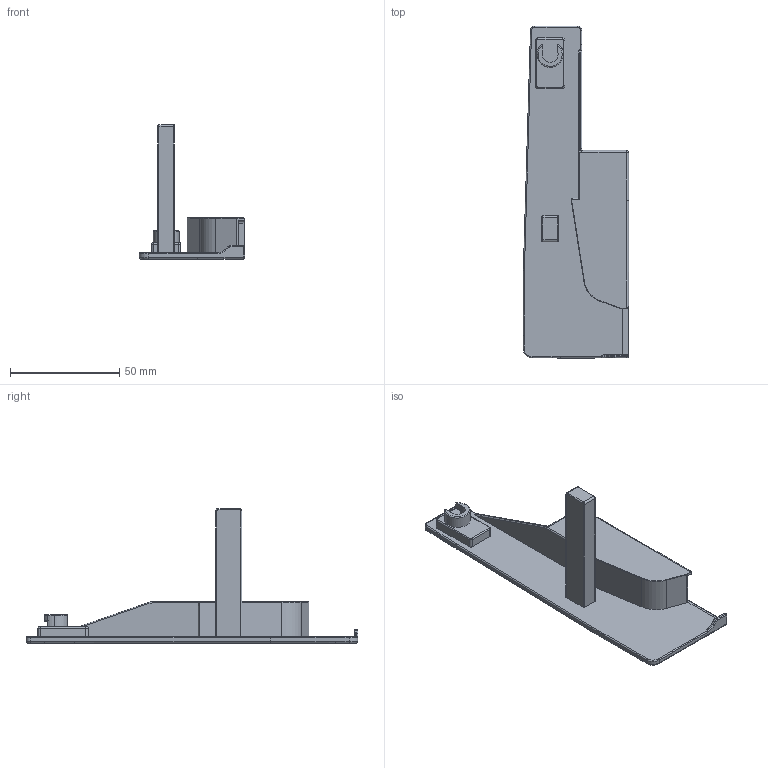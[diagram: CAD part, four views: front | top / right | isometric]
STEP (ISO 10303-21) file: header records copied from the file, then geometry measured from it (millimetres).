
FILE_DESCRIPTION (( 'STEP AP203' ), '1' );
FILE_NAME ('M0101K-R.STEP', '2021-02-01T06:32:21', ( 'Users' ), ( 'Microsoft' ), 'SwSTEP 2.0', 'SolidWorks 2018', '' );
FILE_SCHEMA (( 'CONFIG_CONTROL_DESIGN' ));
Length unit declared in the file: millimetre
Products named in the file (1): M0101K-R
Bounding box: 48.3 x 152.2 x 61.7 mm (x, y, z)
Volume: 47166.8 mm3; surface area: 19772.2 mm2
Topology: 1 solids, 1 shells, 186 faces, 460 edges, 271 vertices
Faces by surface type: cylinder 97, plane 41, torus 40, sphere 5, bspline 3
Entity records: 5626 total; most frequent: CARTESIAN_POINT 1147, DIRECTION 987, ORIENTED_EDGE 904, EDGE_CURVE 452, AXIS2_PLACEMENT_3D 385, VERTEX_POINT 271, VECTOR 217, LINE 217
